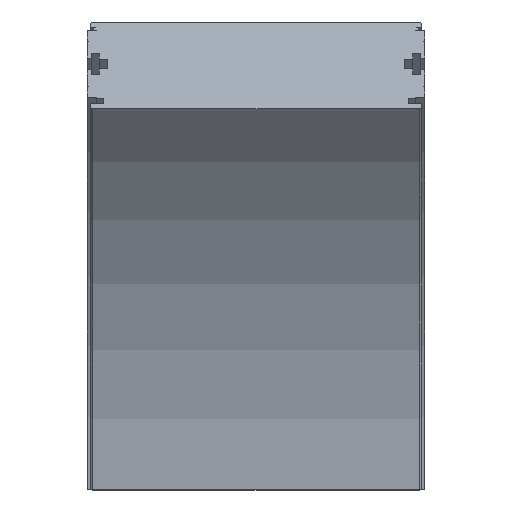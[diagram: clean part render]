
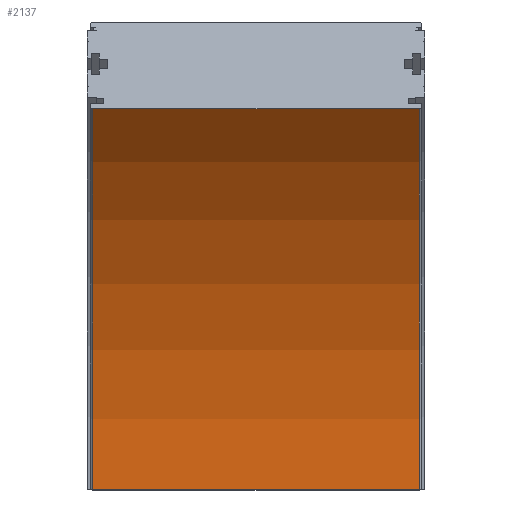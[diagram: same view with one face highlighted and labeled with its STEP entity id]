
A CAD part, top view. The second image highlights one B-rep face of the part: STEP entity #2137.
In plain terms, the highlighted cylindrical face has radius 358 mm (diameter 716 mm), a partial arc.
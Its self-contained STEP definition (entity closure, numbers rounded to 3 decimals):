
#62=CYLINDRICAL_SURFACE('',#2337,358.);
#225=CIRCLE('',#2336,358.);
#226=CIRCLE('',#2338,358.);
#336=FACE_OUTER_BOUND('',#454,.T.);
#454=EDGE_LOOP('',(#1769,#1770,#1771,#1772));
#615=LINE('',#8228,#793);
#616=LINE('',#8230,#794);
#793=VECTOR('',#2838,10.);
#794=VECTOR('',#2839,10.);
#1005=VERTEX_POINT('',#8221);
#1006=VERTEX_POINT('',#8223);
#1007=VERTEX_POINT('',#8227);
#1008=VERTEX_POINT('',#8229);
#1304=EDGE_CURVE('',#1005,#1006,#225,.T.);
#1305=EDGE_CURVE('',#1007,#1005,#615,.T.);
#1306=EDGE_CURVE('',#1008,#1006,#616,.T.);
#1307=EDGE_CURVE('',#1007,#1008,#226,.T.);
#1769=ORIENTED_EDGE('',*,*,#1305,.T.);
#1770=ORIENTED_EDGE('',*,*,#1304,.T.);
#1771=ORIENTED_EDGE('',*,*,#1306,.F.);
#1772=ORIENTED_EDGE('',*,*,#1307,.F.);
#2137=ADVANCED_FACE('',(#336),#62,.F.);
#2336=AXIS2_PLACEMENT_3D('',#8225,#2834,#2835);
#2337=AXIS2_PLACEMENT_3D('',#8226,#2836,#2837);
#2338=AXIS2_PLACEMENT_3D('',#8231,#2840,#2841);
#2834=DIRECTION('center_axis',(1.,0.,0.));
#2835=DIRECTION('ref_axis',(0.,0.,
-1.));
#2836=DIRECTION('center_axis',(1.,0.,0.));
#2837=DIRECTION('ref_axis',(0.,0.,-1.));
#2838=DIRECTION('',(1.,0.,0.));
#2839=DIRECTION('',(1.,0.,0.));
#2840=DIRECTION('center_axis',(1.,0.,0.));
#2841=DIRECTION('ref_axis',(0.,0.,-1.));
#8221=CARTESIAN_POINT('',(108.5,0.,42.));
#8223=CARTESIAN_POINT('',(108.5,253.144,146.856));
#8225=CARTESIAN_POINT('Origin',(108.5,0.,400.));
#8226=CARTESIAN_POINT('Origin',(-54.25,0.,400.));
#8227=CARTESIAN_POINT('',(-108.5,0.,42.));
#8228=CARTESIAN_POINT('',(-108.5,0.,42.));
#8229=CARTESIAN_POINT('',(-108.5,253.144,146.856));
#8230=CARTESIAN_POINT('',(-108.5,253.144,146.856));
#8231=CARTESIAN_POINT('Origin',(-108.5,0.,400.));
